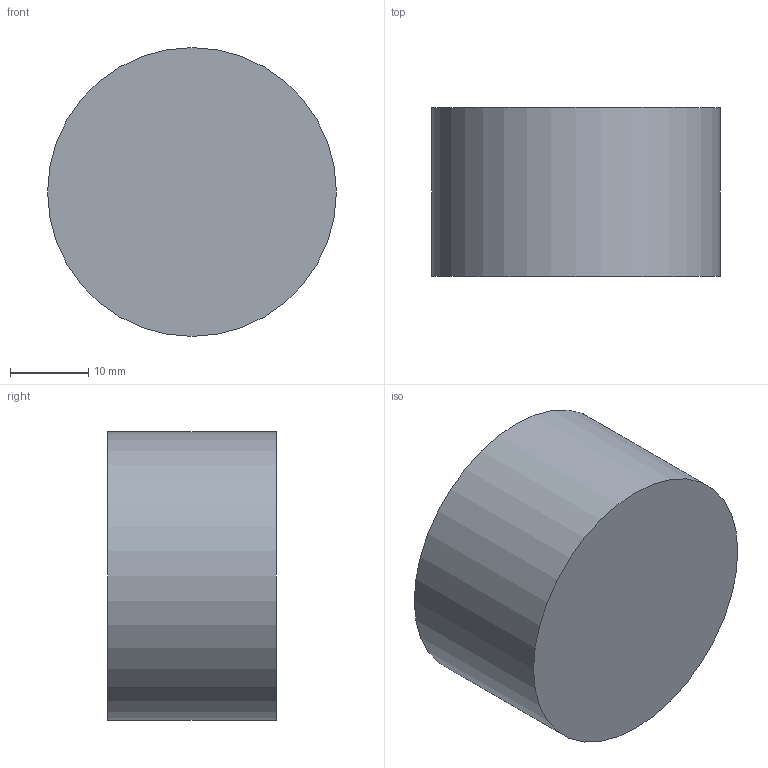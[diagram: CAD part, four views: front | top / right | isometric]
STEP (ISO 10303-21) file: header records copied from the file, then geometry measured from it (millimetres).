
FILE_DESCRIPTION(('Open CASCADE Model'),'2;1');
FILE_NAME('Open CASCADE Shape Model','2026-10-13T11:47:37',('Author'),( 'Open CASCADE'),'Open CASCADE STEP processor 7.8','Open CASCADE 7.8' ,'Unknown');
FILE_SCHEMA(('AUTOMOTIVE_DESIGN { 1 0 10303 214 1 1 1 1 }'));
Length unit declared in the file: millimetre
Products named in the file (1): Open CASCADE STEP translator 7.8 44
Bounding box: 36.8 x 21.5 x 36.8 mm (x, y, z)
Volume: 22867.8 mm3; surface area: 4612.9 mm2
Topology: 1 solids, 1 shells, 3 faces, 3 edges, 2 vertices
Faces by surface type: plane 2, cylinder 1
Full cylindrical faces by diameter (mm): 36.8 x1
Entity records: 108 total; most frequent: DIRECTION 19, CARTESIAN_POINT 15, AXIS2_PLACEMENT_3D 6, ORIENTED_EDGE 6, PCURVE 6, DEFINITIONAL_REPRESENTATION 6, LINE 5, VECTOR 5
